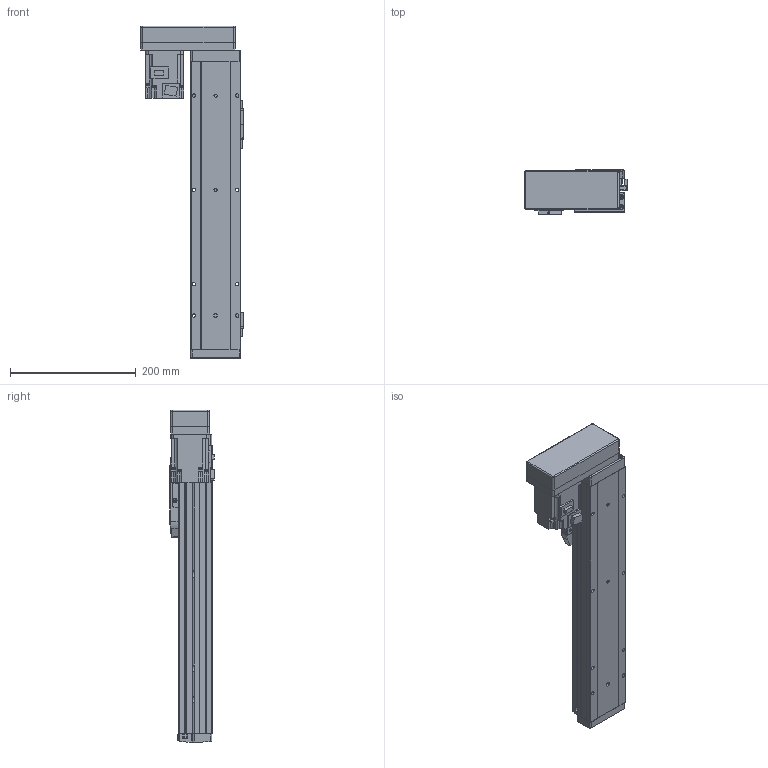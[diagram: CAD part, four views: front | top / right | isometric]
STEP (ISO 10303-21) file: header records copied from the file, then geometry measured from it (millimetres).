
FILE_DESCRIPTION (( 'STEP AP214' ), '1' );
FILE_NAME ('GSH8-300-BR-M20-1.step', '2025-01-07T06:10:07', ( '' ), ( '' ), 'SwSTEP 2.0', 'SolidWorks 2012', '' );
FILE_SCHEMA (( 'AUTOMOTIVE_DESIGN' ));
Length unit declared in the file: millimetre
Products named in the file (5): GSH8-GY-004; GSH8-BL-008; GSH8-300-BR-M20-1; GSH8-BL-011-300-M20; HG-KR23_200W_Motor
Assembly tree (4 placements, depth 2):
  GSH8-300-BR-M20-1
    GSH8-BL-011-300-M20
    GSH8-GY-004
    GSH8-BL-008
    HG-KR23_200W_Motor
Bounding box: 163 x 71.3 x 528.2 mm (x, y, z)
Volume: 1636023.3 mm3; surface area: 368915.4 mm2
Topology: 4 solids, 8 shells, 1097 faces, 2867 edges, 1843 vertices
Faces by surface type: plane 624, cylinder 377, torus 42, cone 26, bspline 24, sphere 4
Entity records: 43023 total; most frequent: CARTESIAN_POINT 9756, DIRECTION 5819, ORIENTED_EDGE 5718, EDGE_CURVE 2859, AXIS2_PLACEMENT_3D 1958, VECTOR 1903, LINE 1903, VERTEX_POINT 1839
